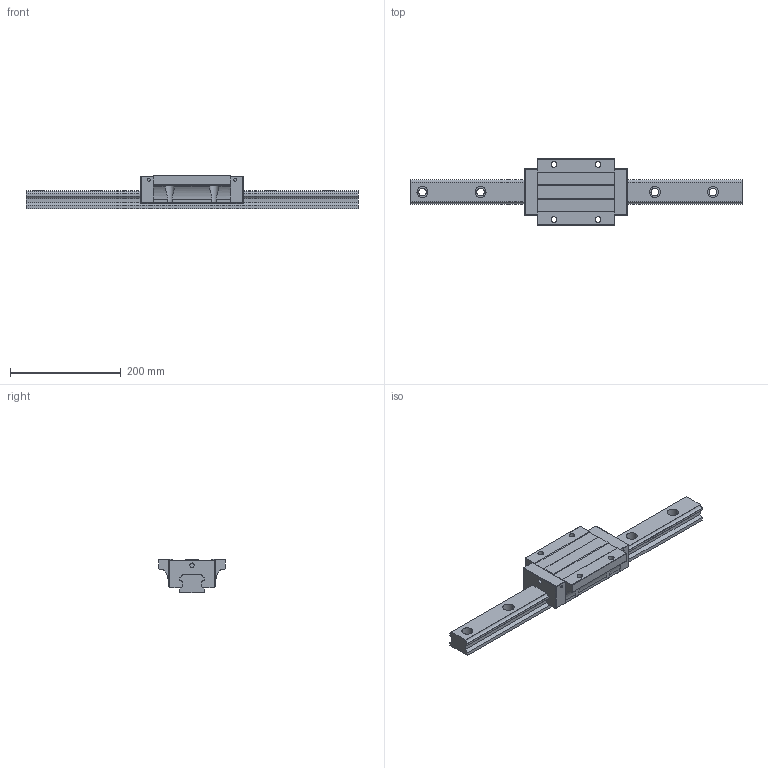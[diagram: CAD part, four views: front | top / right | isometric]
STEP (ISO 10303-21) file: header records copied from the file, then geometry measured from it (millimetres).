
FILE_DESCRIPTION (( 'STEP AP203' ), '1' );
FILE_NAME ('TRH45FE-WW.STEP', '2024-05-08T05:21:02', ( '' ), ( '' ), 'SwSTEP 2.0', 'SolidWorks 2022', '' );
FILE_SCHEMA (( 'CONFIG_CONTROL_DESIGN' ));
Length unit declared in the file: millimetre
Products named in the file (1): TRH45FE-WW
Bounding box: 600 x 120 x 60 mm (x, y, z)
Volume: 1406324 mm3; surface area: 186418.6 mm2
Topology: 2 solids, 2 shells, 214 faces, 582 edges, 380 vertices
Faces by surface type: cylinder 114, plane 96, sphere 4
Entity records: 7409 total; most frequent: CARTESIAN_POINT 1789, DIRECTION 1172, ORIENTED_EDGE 1156, EDGE_CURVE 578, AXIS2_PLACEMENT_3D 411, VERTEX_POINT 380, LINE 350, VECTOR 350
